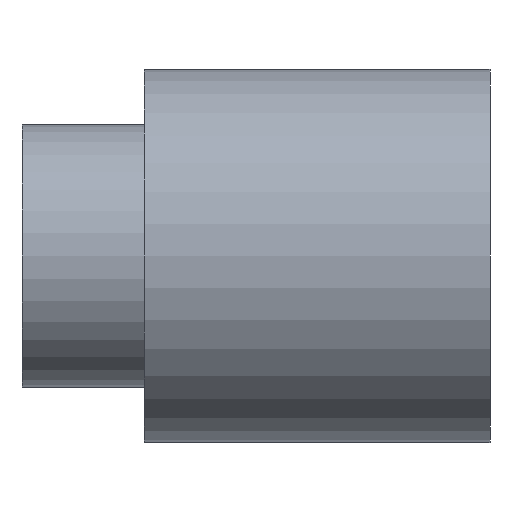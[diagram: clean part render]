
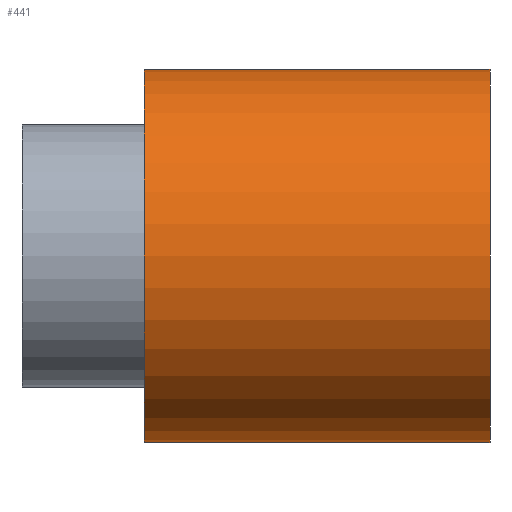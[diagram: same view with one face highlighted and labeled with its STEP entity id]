
A CAD part, left-side view. The second image highlights one B-rep face of the part: STEP entity #441.
In plain terms, the highlighted cylindrical face has radius 17.462 mm (diameter 34.925 mm), a partial arc.
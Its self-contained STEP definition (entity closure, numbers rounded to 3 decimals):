
#11 = EDGE_CURVE ( 'NONE', #535, #203, #540, .T. ) ;
#20 = CIRCLE ( 'NONE', #103, 17.463 ) ;
#29 = CYLINDRICAL_SURFACE ( 'NONE', #385, 17.463 ) ;
#30 = AXIS2_PLACEMENT_3D ( 'NONE', #61, #402, #149 ) ;
#40 = DIRECTION ( 'NONE',  ( 0., 0., 1. ) ) ;
#46 = CARTESIAN_POINT ( 'NONE',  ( 41.665, 240.228, 17.462 ) ) ;
#61 = CARTESIAN_POINT ( 'NONE',  ( 41.665, 272.613, 0. ) ) ;
#67 = DIRECTION ( 'NONE',  ( 0., 1., 0. ) ) ;
#103 = AXIS2_PLACEMENT_3D ( 'NONE', #553, #298, #40 ) ;
#122 = LINE ( 'NONE', #500, #218 ) ;
#130 = CARTESIAN_POINT ( 'NONE',  ( 41.665, 302.71, -17.463 ) ) ;
#149 = DIRECTION ( 'NONE',  ( 0., 0., 1. ) ) ;
#154 = CARTESIAN_POINT ( 'NONE',  ( 41.665, 302.71, 0. ) ) ;
#203 = VERTEX_POINT ( 'NONE', #314 ) ;
#218 = VECTOR ( 'NONE', #367, 1000. ) ;
#296 = EDGE_LOOP ( 'NONE', ( #525, #523, #480, #511 ) ) ;
#298 = DIRECTION ( 'NONE',  ( 0., 1., 0. ) ) ;
#301 = EDGE_CURVE ( 'NONE', #536, #531, #20, .T. ) ;
#314 = CARTESIAN_POINT ( 'NONE',  ( 41.665, 272.613, 17.462 ) ) ;
#344 = CARTESIAN_POINT ( 'NONE',  ( 41.665, 240.228, -17.463 ) ) ;
#365 = DIRECTION ( 'NONE',  ( 0., 0., 1. ) ) ;
#367 = DIRECTION ( 'NONE',  ( 0., 1., 0. ) ) ;
#373 = LINE ( 'NONE', #130, #387 ) ;
#385 = AXIS2_PLACEMENT_3D ( 'NONE', #154, #67, #365 ) ;
#387 = VECTOR ( 'NONE', #424, 1000. ) ;
#402 = DIRECTION ( 'NONE',  ( 0., 1., 0. ) ) ;
#410 = FACE_OUTER_BOUND ( 'NONE', #296, .T. ) ;
#424 = DIRECTION ( 'NONE',  ( 0., 1., 0. ) ) ;
#441 = ADVANCED_FACE ( 'NONE', ( #410 ), #29, .T. ) ;
#461 = CARTESIAN_POINT ( 'NONE',  ( 41.665, 272.613, -17.463 ) ) ;
#480 = ORIENTED_EDGE ( 'NONE', *, *, #486, .T. ) ;
#486 = EDGE_CURVE ( 'NONE', #531, #203, #122, .T. ) ;
#500 = CARTESIAN_POINT ( 'NONE',  ( 41.665, 302.71, 17.462 ) ) ;
#511 = ORIENTED_EDGE ( 'NONE', *, *, #11, .F. ) ;
#523 = ORIENTED_EDGE ( 'NONE', *, *, #301, .T. ) ;
#525 = ORIENTED_EDGE ( 'NONE', *, *, #549, .F. ) ;
#531 = VERTEX_POINT ( 'NONE', #46 ) ;
#535 = VERTEX_POINT ( 'NONE', #461 ) ;
#536 = VERTEX_POINT ( 'NONE', #344 ) ;
#540 = CIRCLE ( 'NONE', #30, 17.463 ) ;
#549 = EDGE_CURVE ( 'NONE', #536, #535, #373, .T. ) ;
#553 = CARTESIAN_POINT ( 'NONE',  ( 41.665, 240.228, 0. ) ) ;
